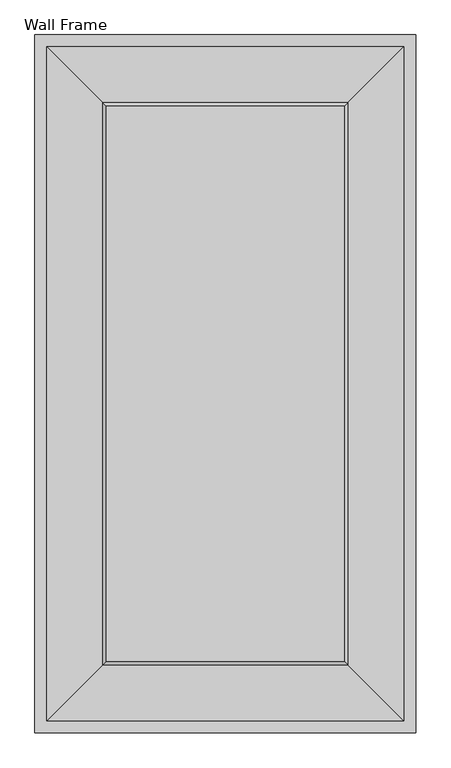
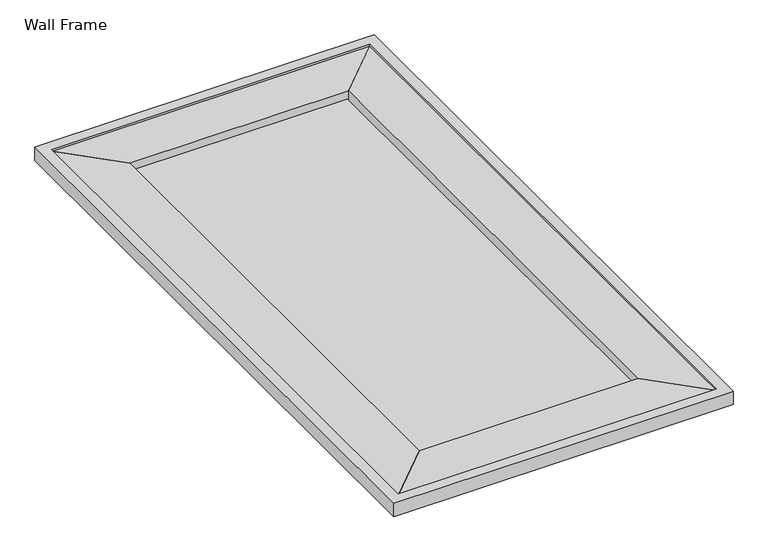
"""IFC4 building model written with IfcOpenShell, lengths in millimetres: furniture geometry."""

from ifc_helpers import new_model, si_unit, origin, origin_with_axes, place, context, project, spatial, polyline, outline, extrude, faceted_brep, source, transform, mapped, element, save


def wall_frame_b3d80cf9(model_context):
    return source(origin(), model_context, "Body", "SolidModel", [
        extrude(outline(polyline([(304.8, 558.8), (304.8, -558.8), (-304.8, -558.8), (-304.8, 558.8), (304.8, 558.8)]), holes=[polyline([(285.75, 539.75), (-285.75, 539.75), (-285.75, -539.75), (285.75, -539.75), (285.75, 539.75)])]), origin_with_axes(), (0.0, 0.0, 1.0), 25.4),
        extrude(outline(polyline([(-196.85, 450.85), (-196.85, -450.85), (-285.75, -539.75), (-285.75, 539.75), (-196.85, 450.85)])), origin_with_axes(), (0.0, 0.0, 1.0), 22.225),
        extrude(outline(polyline([(196.85, -450.85), (196.85, 450.85), (285.75, 539.75), (285.75, -539.75), (196.85, -450.85)])), origin_with_axes(), (0.0, 0.0, 1.0), 22.225),
        faceted_brep([(190.5, 444.5, 12.7), (-190.5, 444.5, 12.7), (-190.5, -444.5, 12.7), (190.5, -444.5, 12.7), (196.85, 450.85, 0.0), (196.85, -450.85, 0.0), (-196.85, -450.85, 0.0), (-196.85, 450.85, 0.0)], [[[0, 1, 2, 3]], [[4, 5, 6, 7]], [[4, 7, 1, 0]], [[7, 6, 2, 1]], [[6, 5, 3, 2]], [[5, 4, 0, 3]]]),
        extrude(outline(polyline([(-196.85, 450.85), (-285.75, 539.75), (285.75, 539.75), (196.85, 450.85), (-196.85, 450.85)])), origin_with_axes(), (0.0, 0.0, 1.0), 22.225),
        extrude(outline(polyline([(196.85, -450.85), (285.75, -539.75), (-285.75, -539.75), (-196.85, -450.85), (196.85, -450.85)])), origin_with_axes(), (0.0, 0.0, 1.0), 22.225),
    ])


if __name__ == "__main__":
    model = new_model("IFC4")
    model_context = context("Model", 3, world=origin())
    ifc_project = project(units=[si_unit("LENGTHUNIT", "METRE", prefix="MILLI")], contexts=[model_context])
    site = spatial("IfcSite", under=ifc_project)
    building = spatial("IfcBuilding", under=site)
    placement = place(None, origin())
    wall_frame_shape = wall_frame_b3d80cf9(model_context)
    element("IfcFurniture", 1, ObjectType="Wall Frame : 2'-0\"W x 3'-8\"H (Mirror)", at=placement, inside=building, context=model_context, shape_type="MappedRepresentation", body=[
        mapped(wall_frame_shape, transform((0.0, 0.0, 0.0), x_axis=(1.0, 0.0, 0.0), y_axis=(0.0, 1.0, 0.0), z_axis=(0.0, 0.0, 1.0))),
    ])
    save(model, "model.ifc")
